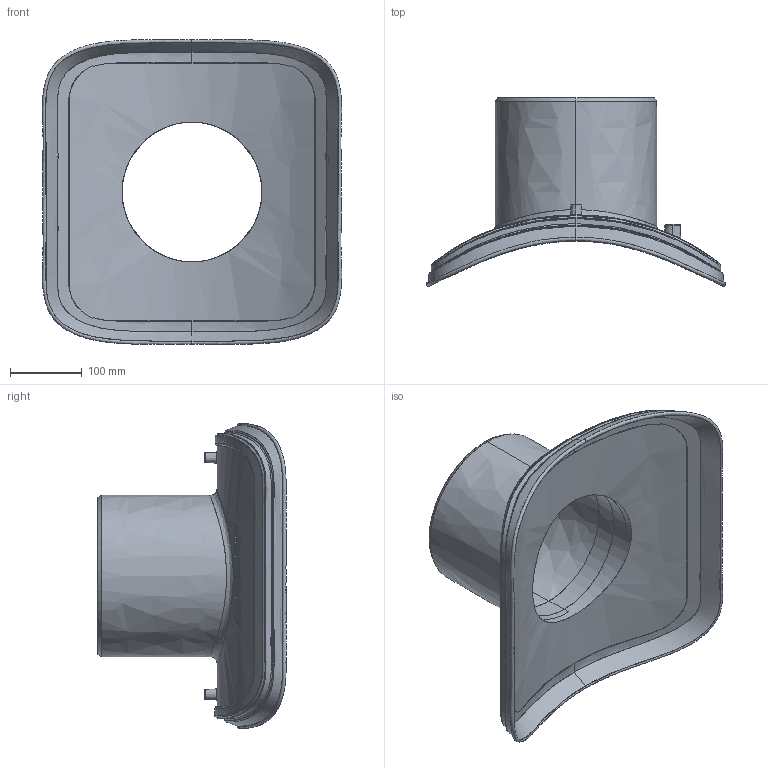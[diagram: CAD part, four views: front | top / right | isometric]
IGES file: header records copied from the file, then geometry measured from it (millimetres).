
Start section:  PTC IGES file: asa-vl_d630.igs
Global section: file name: asa-vl_d630.igs; native system: Pro/ENGINEER by Parametric Technology Corporation; preprocessor: 2011490; author: mtunjic; organization: Unknown; date: 20130730.093817; units: millimetre
Bounding box: 417.33 x 262.25 x 425.13 mm (x, y, z)
Surface area: 595973.7 mm2 (no closed solid volume)
Topology: 0 solids, 0 shells, 207 faces, 1018 edges, 1018 vertices
Faces by surface type: bspline 207
